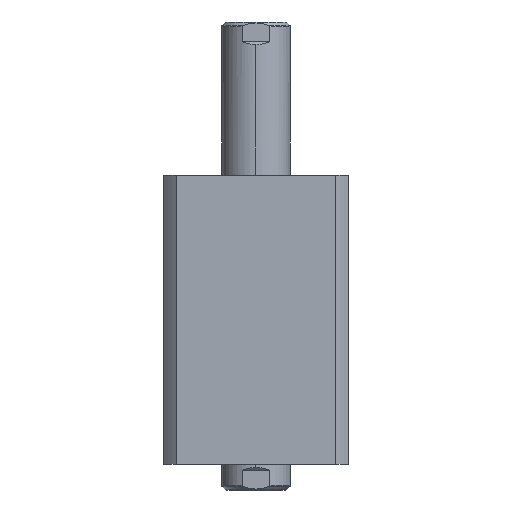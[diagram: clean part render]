
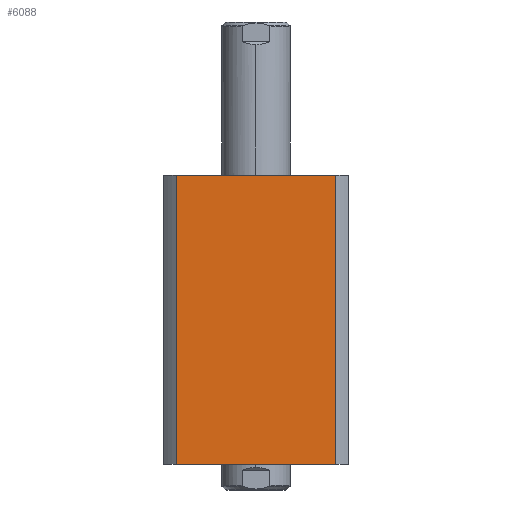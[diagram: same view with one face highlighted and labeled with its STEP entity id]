
A CAD part, left-side view. The second image highlights one B-rep face of the part: STEP entity #6088.
In plain terms, the highlighted planar face has unit normal (-1, 0, 0).
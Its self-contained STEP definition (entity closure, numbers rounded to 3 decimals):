
#221 = PLANE ( 'NONE',  #15164 ) ;
#566 = CARTESIAN_POINT ( 'NONE',  ( -47., 40.435, 147. ) ) ;
#2260 = DIRECTION ( 'NONE',  ( 0., -1., 0. ) ) ;
#2587 = VECTOR ( 'NONE', #16731, 1000. ) ;
#2778 = ORIENTED_EDGE ( 'NONE', *, *, #11928, .T. ) ;
#2799 = CARTESIAN_POINT ( 'NONE',  ( -47., 47., 0. ) ) ;
#3041 = EDGE_CURVE ( 'NONE', #7287, #12643, #11765, .T. ) ;
#3090 = DIRECTION ( 'NONE',  ( 1., 0., 0. ) ) ;
#3380 = ORIENTED_EDGE ( 'NONE', *, *, #9371, .F. ) ;
#3808 = LINE ( 'NONE', #12222, #15168 ) ;
#4247 = DIRECTION ( 'NONE',  ( 0., -1., 0. ) ) ;
#4882 = EDGE_LOOP ( 'NONE', ( #12671, #3380, #8846, #2778 ) ) ;
#5116 = CARTESIAN_POINT ( 'NONE',  ( -47., 40.435, 0. ) ) ;
#5663 = VERTEX_POINT ( 'NONE', #5116 ) ;
#6088 = ADVANCED_FACE ( 'NONE', ( #7340 ), #221, .F. ) ;
#7287 = VERTEX_POINT ( 'NONE', #8643 ) ;
#7319 = LINE ( 'NONE', #2799, #17349 ) ;
#7340 = FACE_OUTER_BOUND ( 'NONE', #4882, .T. ) ;
#8643 = CARTESIAN_POINT ( 'NONE',  ( -47., -40.435, 147. ) ) ;
#8846 = ORIENTED_EDGE ( 'NONE', *, *, #18330, .F. ) ;
#9137 = DIRECTION ( 'NONE',  ( 0., 0., -1. ) ) ;
#9371 = EDGE_CURVE ( 'NONE', #16904, #7287, #3808, .T. ) ;
#10143 = CARTESIAN_POINT ( 'NONE',  ( -47., 47., 147. ) ) ;
#11287 = VECTOR ( 'NONE', #9137, 1000. ) ;
#11765 = LINE ( 'NONE', #13446, #11287 ) ;
#11928 = EDGE_CURVE ( 'NONE', #5663, #12643, #7319, .T. ) ;
#12222 = CARTESIAN_POINT ( 'NONE',  ( -47., 47., 147. ) ) ;
#12643 = VERTEX_POINT ( 'NONE', #15976 ) ;
#12671 = ORIENTED_EDGE ( 'NONE', *, *, #3041, .F. ) ;
#13035 = DIRECTION ( 'NONE',  ( 0., 1., 0. ) ) ;
#13446 = CARTESIAN_POINT ( 'NONE',  ( -47., -40.435, 300. ) ) ;
#15164 = AXIS2_PLACEMENT_3D ( 'NONE', #10143, #3090, #13035 ) ;
#15168 = VECTOR ( 'NONE', #2260, 1000. ) ;
#15976 = CARTESIAN_POINT ( 'NONE',  ( -47., -40.435, 0. ) ) ;
#16665 = CARTESIAN_POINT ( 'NONE',  ( -47., 40.435, 300. ) ) ;
#16731 = DIRECTION ( 'NONE',  ( 0., 0., 1. ) ) ;
#16904 = VERTEX_POINT ( 'NONE', #566 ) ;
#17349 = VECTOR ( 'NONE', #4247, 1000. ) ;
#17759 = LINE ( 'NONE', #16665, #2587 ) ;
#18330 = EDGE_CURVE ( 'NONE', #5663, #16904, #17759, .T. ) ;
